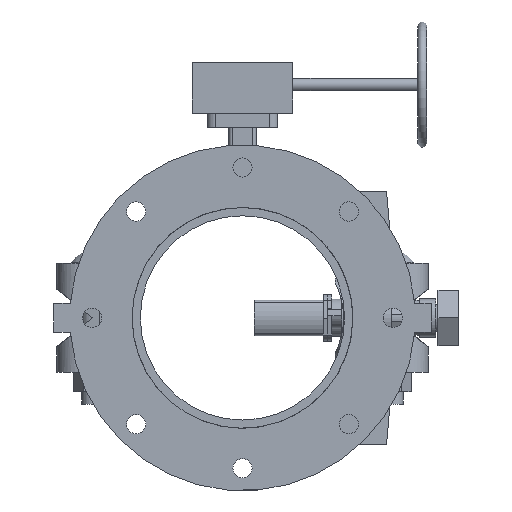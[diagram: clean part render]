
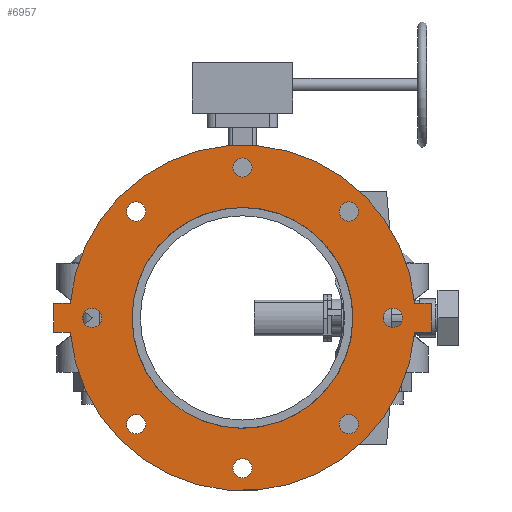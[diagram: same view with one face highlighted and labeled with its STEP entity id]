
A CAD part, front view. The second image highlights one B-rep face of the part: STEP entity #6957.
In plain terms, the highlighted planar face has unit normal (0, -1, 0) as drawn and (0, 0, -1) by its records, which use the part's own axes.
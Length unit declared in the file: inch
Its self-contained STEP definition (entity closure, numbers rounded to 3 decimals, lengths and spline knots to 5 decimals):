
#175=FACE_BOUND('',#881,.T.);
#176=FACE_BOUND('',#882,.T.);
#177=FACE_BOUND('',#883,.T.);
#178=FACE_BOUND('',#884,.T.);
#179=FACE_BOUND('',#885,.T.);
#180=FACE_BOUND('',#886,.T.);
#181=FACE_BOUND('',#887,.T.);
#182=FACE_BOUND('',#888,.T.);
#183=FACE_BOUND('',#889,.T.);
#259=PLANE('',#7527);
#499=FACE_OUTER_BOUND('',#880,.T.);
#880=EDGE_LOOP('',(#4477,#4478,#4479,#4480,#4481,#4482,#4483,#4484));
#881=EDGE_LOOP('',(#4485));
#882=EDGE_LOOP('',(#4486));
#883=EDGE_LOOP('',(#4487));
#884=EDGE_LOOP('',(#4488));
#885=EDGE_LOOP('',(#4489));
#886=EDGE_LOOP('',(#4490));
#887=EDGE_LOOP('',(#4491));
#888=EDGE_LOOP('',(#4492));
#889=EDGE_LOOP('',(#4493,#4494));
#1345=LINE('',#10493,#1876);
#1346=LINE('',#10495,#1877);
#1347=LINE('',#10497,#1878);
#1348=LINE('',#10501,#1879);
#1349=LINE('',#10503,#1880);
#1350=LINE('',#10504,#1881);
#1876=VECTOR('',#8367,0.3937);
#1877=VECTOR('',#8368,0.3937);
#1878=VECTOR('',#8369,0.3937);
#1879=VECTOR('',#8372,0.3937);
#1880=VECTOR('',#8373,0.3937);
#1881=VECTOR('',#8374,0.3937);
#2400=CIRCLE('',#7505,0.375);
#2402=CIRCLE('',#7508,0.375);
#2404=CIRCLE('',#7511,0.375);
#2406=CIRCLE('',#7514,0.375);
#2408=CIRCLE('',#7517,0.375);
#2410=CIRCLE('',#7520,0.375);
#2412=CIRCLE('',#7523,0.375);
#2414=CIRCLE('',#7526,0.375);
#2415=CIRCLE('',#7528,6.75);
#2416=CIRCLE('',#7529,6.75);
#2417=CIRCLE('',#7530,4.3125);
#2418=CIRCLE('',#7531,4.3125);
#2781=VERTEX_POINT('',#10443);
#2783=VERTEX_POINT('',#10449);
#2785=VERTEX_POINT('',#10455);
#2787=VERTEX_POINT('',#10461);
#2789=VERTEX_POINT('',#10467);
#2791=VERTEX_POINT('',#10473);
#2793=VERTEX_POINT('',#10479);
#2795=VERTEX_POINT('',#10485);
#2796=VERTEX_POINT('',#10489);
#2797=VERTEX_POINT('',#10490);
#2798=VERTEX_POINT('',#10492);
#2799=VERTEX_POINT('',#10494);
#2800=VERTEX_POINT('',#10496);
#2801=VERTEX_POINT('',#10498);
#2802=VERTEX_POINT('',#10500);
#2803=VERTEX_POINT('',#10502);
#2804=VERTEX_POINT('',#10505);
#2805=VERTEX_POINT('',#10506);
#3451=EDGE_CURVE('',#2781,#2781,#2400,.T.);
#3454=EDGE_CURVE('',#2783,#2783,#2402,.T.);
#3457=EDGE_CURVE('',#2785,#2785,#2404,.T.);
#3460=EDGE_CURVE('',#2787,#2787,#2406,.T.);
#3463=EDGE_CURVE('',#2789,#2789,#2408,.T.);
#3466=EDGE_CURVE('',#2791,#2791,#2410,.T.);
#3469=EDGE_CURVE('',#2793,#2793,#2412,.T.);
#3472=EDGE_CURVE('',#2795,#2795,#2414,.T.);
#3473=EDGE_CURVE('',#2796,#2797,#2415,.T.);
#3474=EDGE_CURVE('',#2797,#2798,#1345,.T.);
#3475=EDGE_CURVE('',#2798,#2799,#1346,.T.);
#3476=EDGE_CURVE('',#2799,#2800,#1347,.T.);
#3477=EDGE_CURVE('',#2800,#2801,#2416,.T.);
#3478=EDGE_CURVE('',#2801,#2802,#1348,.T.);
#3479=EDGE_CURVE('',#2802,#2803,#1349,.T.);
#3480=EDGE_CURVE('',#2803,#2796,#1350,.T.);
#3481=EDGE_CURVE('',#2804,#2805,#2417,.T.);
#3482=EDGE_CURVE('',#2805,#2804,#2418,.T.);
#4477=ORIENTED_EDGE('',*,*,#3473,.T.);
#4478=ORIENTED_EDGE('',*,*,#3474,.T.);
#4479=ORIENTED_EDGE('',*,*,#3475,.T.);
#4480=ORIENTED_EDGE('',*,*,#3476,.T.);
#4481=ORIENTED_EDGE('',*,*,#3477,.T.);
#4482=ORIENTED_EDGE('',*,*,#3478,.T.);
#4483=ORIENTED_EDGE('',*,*,#3479,.T.);
#4484=ORIENTED_EDGE('',*,*,#3480,.T.);
#4485=ORIENTED_EDGE('',*,*,#3451,.T.);
#4486=ORIENTED_EDGE('',*,*,#3454,.T.);
#4487=ORIENTED_EDGE('',*,*,#3457,.T.);
#4488=ORIENTED_EDGE('',*,*,#3460,.T.);
#4489=ORIENTED_EDGE('',*,*,#3463,.T.);
#4490=ORIENTED_EDGE('',*,*,#3466,.T.);
#4491=ORIENTED_EDGE('',*,*,#3469,.T.);
#4492=ORIENTED_EDGE('',*,*,#3472,.T.);
#4493=ORIENTED_EDGE('',*,*,#3481,.T.);
#4494=ORIENTED_EDGE('',*,*,#3482,.T.);
#6957=ADVANCED_FACE('',(#499,#175,#176,#177,#178,#179,#180,#181,#182,#183),
#259,.T.);
#7505=AXIS2_PLACEMENT_3D('',#10445,#8312,#8313);
#7508=AXIS2_PLACEMENT_3D('',#10451,#8319,#8320);
#7511=AXIS2_PLACEMENT_3D('',#10457,#8326,#8327);
#7514=AXIS2_PLACEMENT_3D('',#10463,#8333,#8334);
#7517=AXIS2_PLACEMENT_3D('',#10469,#8340,#8341);
#7520=AXIS2_PLACEMENT_3D('',#10475,#8347,#8348);
#7523=AXIS2_PLACEMENT_3D('',#10481,#8354,#8355);
#7526=AXIS2_PLACEMENT_3D('',#10487,#8361,#8362);
#7527=AXIS2_PLACEMENT_3D('',#10488,#8363,#8364);
#7528=AXIS2_PLACEMENT_3D('',#10491,#8365,#8366);
#7529=AXIS2_PLACEMENT_3D('',#10499,#8370,#8371);
#7530=AXIS2_PLACEMENT_3D('',#10507,#8375,#8376);
#7531=AXIS2_PLACEMENT_3D('',#10508,#8377,#8378);
#8312=DIRECTION('center_axis',(0.,0.,1.));
#8313=DIRECTION('ref_axis',(-0.707,0.707,0.));
#8319=DIRECTION('center_axis',(0.,0.,1.));
#8320=DIRECTION('ref_axis',(0.,1.,0.));
#8326=DIRECTION('center_axis',(0.,0.,1.));
#8327=DIRECTION('ref_axis',(0.707,0.707,0.));
#8333=DIRECTION('center_axis',(0.,0.,1.));
#8334=DIRECTION('ref_axis',(1.,0.,0.));
#8340=DIRECTION('center_axis',(0.,0.,1.));
#8341=DIRECTION('ref_axis',(0.707,-0.707,0.));
#8347=DIRECTION('center_axis',(0.,0.,1.));
#8348=DIRECTION('ref_axis',(0.,-1.,0.));
#8354=DIRECTION('center_axis',(0.,0.,1.));
#8355=DIRECTION('ref_axis',(-0.707,-0.707,0.));
#8361=DIRECTION('center_axis',(0.,0.,1.));
#8362=DIRECTION('ref_axis',(-1.,0.,0.));
#8363=DIRECTION('center_axis',(0.,0.,-1.));
#8364=DIRECTION('ref_axis',(-1.,0.,0.));
#8365=DIRECTION('center_axis',(0.,0.,-1.));
#8366=DIRECTION('ref_axis',(-1.,0.,0.));
#8367=DIRECTION('',(0.,1.,0.));
#8368=DIRECTION('',(1.,0.,0.));
#8369=DIRECTION('',(0.,-1.,0.));
#8370=DIRECTION('center_axis',(0.,0.,-1.));
#8371=DIRECTION('ref_axis',(-1.,0.,0.));
#8372=DIRECTION('',(0.,-1.,0.));
#8373=DIRECTION('',(-1.,0.,0.));
#8374=DIRECTION('',(0.,1.,0.));
#8375=DIRECTION('center_axis',(0.,0.,1.));
#8376=DIRECTION('ref_axis',(-1.,0.,0.));
#8377=DIRECTION('center_axis',(0.,0.,1.));
#8378=DIRECTION('ref_axis',(-1.,0.,0.));
#10443=CARTESIAN_POINT('',(-3.88909,3.88909,-0.565));
#10445=CARTESIAN_POINT('Origin',(-4.15425,4.15425,-0.565));
#10449=CARTESIAN_POINT('',(0.,5.5,-0.565));
#10451=CARTESIAN_POINT('Origin',(0.,5.875,-0.565));
#10455=CARTESIAN_POINT('',(3.88909,3.88909,-0.565));
#10457=CARTESIAN_POINT('Origin',(4.15425,4.15425,-0.565));
#10461=CARTESIAN_POINT('',(5.5,0.,-0.565));
#10463=CARTESIAN_POINT('Origin',(5.875,0.,-0.565));
#10467=CARTESIAN_POINT('',(3.88909,-3.88909,-0.565));
#10469=CARTESIAN_POINT('Origin',(4.15425,-4.15425,-0.565));
#10473=CARTESIAN_POINT('',(0.,-5.5,-0.565));
#10475=CARTESIAN_POINT('Origin',(0.,-5.875,-0.565));
#10479=CARTESIAN_POINT('',(-3.88909,-3.88909,-0.565));
#10481=CARTESIAN_POINT('Origin',(-4.15425,-4.15425,-0.565));
#10485=CARTESIAN_POINT('',(-5.5,0.,-0.565));
#10487=CARTESIAN_POINT('Origin',(-5.875,0.,-0.565));
#10488=CARTESIAN_POINT('Origin',(0.,0.,-0.565));
#10489=CARTESIAN_POINT('',(-0.565,-6.72631,-0.565));
#10490=CARTESIAN_POINT('',(-0.565,6.72631,-0.565));
#10491=CARTESIAN_POINT('Origin',(0.,0.,-0.565));
#10492=CARTESIAN_POINT('',(-0.565,7.375,-0.565));
#10493=CARTESIAN_POINT('',(-0.565,-7.375,-0.565));
#10494=CARTESIAN_POINT('',(0.565,7.375,-0.565));
#10495=CARTESIAN_POINT('',(-0.565,7.375,-0.565));
#10496=CARTESIAN_POINT('',(0.565,6.72631,-0.565));
#10497=CARTESIAN_POINT('',(0.565,7.375,-0.565));
#10498=CARTESIAN_POINT('',(0.565,-6.72631,-0.565));
#10499=CARTESIAN_POINT('Origin',(0.,0.,-0.565));
#10500=CARTESIAN_POINT('',(0.565,-7.375,-0.565));
#10501=CARTESIAN_POINT('',(0.565,7.375,-0.565));
#10502=CARTESIAN_POINT('',(-0.565,-7.375,-0.565));
#10503=CARTESIAN_POINT('',(0.565,-7.375,-0.565));
#10504=CARTESIAN_POINT('',(-0.565,-7.375,-0.565));
#10505=CARTESIAN_POINT('',(0.565,4.27533,-0.565));
#10506=CARTESIAN_POINT('',(4.3125,0.,-0.565));
#10507=CARTESIAN_POINT('Origin',(0.,0.,-0.565));
#10508=CARTESIAN_POINT('Origin',(0.,0.,-0.565));
